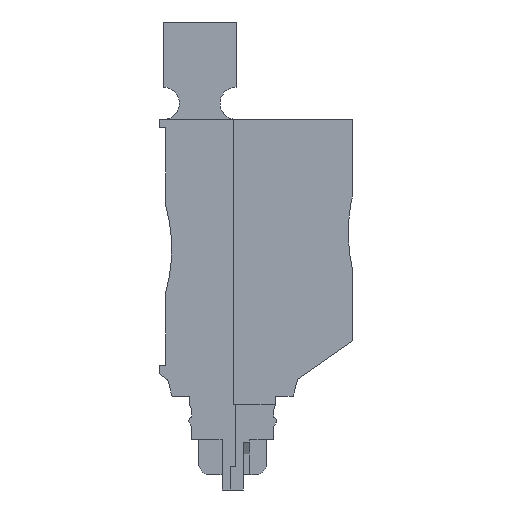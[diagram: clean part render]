
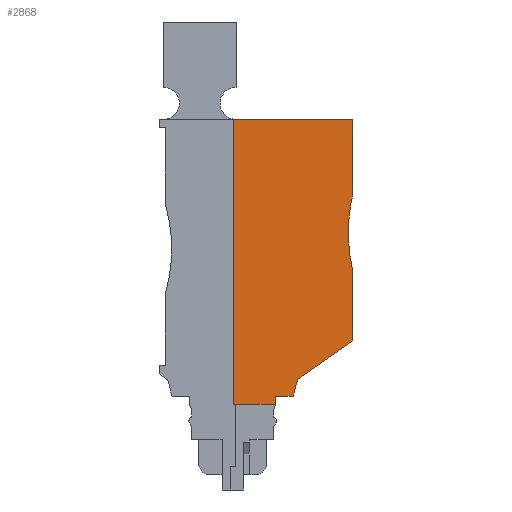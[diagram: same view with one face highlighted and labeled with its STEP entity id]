
A CAD part, left-side view. The second image highlights one B-rep face of the part: STEP entity #2868.
In plain terms, the highlighted planar face has unit normal (-1, 0, 0).
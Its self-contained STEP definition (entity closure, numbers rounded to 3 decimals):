
#348=CARTESIAN_POINT('',(0.,0.558,32.522));
#349=VERTEX_POINT('',#348);
#389=CARTESIAN_POINT('',(0.,-0.,36.419));
#390=VERTEX_POINT('',#389);
#397=CARTESIAN_POINT('',(0.,-19.423,31.65));
#398=DIRECTION('',(1.,-0.,-0.));
#399=DIRECTION('',(0.,0.174,0.985));
#400=AXIS2_PLACEMENT_3D('',#397,#398,#399);
#401=CIRCLE('',#400,20.);
#402=EDGE_CURVE('',#349,#390,#401,.T.);
#1678=CARTESIAN_POINT('',(0.,-0.,45.55));
#1679=VERTEX_POINT('',#1678);
#1686=CARTESIAN_POINT('',(-0.,-0.,36.419));
#1687=DIRECTION('',(0.,-0.,1.));
#1688=VECTOR('',#1687,9.131);
#1689=LINE('',#1686,#1688);
#1690=EDGE_CURVE('',#390,#1679,#1689,.T.);
#1742=CARTESIAN_POINT('',(-0.,7.349,11.55));
#1743=VERTEX_POINT('',#1742);
#1751=CARTESIAN_POINT('',(-0.,6.803,13.586));
#1752=VERTEX_POINT('',#1751);
#1759=CARTESIAN_POINT('',(-0.,7.349,11.55));
#1760=DIRECTION('',(0.,-0.259,0.966));
#1761=VECTOR('',#1760,2.108);
#1762=LINE('',#1759,#1761);
#1763=EDGE_CURVE('',#1743,#1752,#1762,.T.);
#2046=CARTESIAN_POINT('',(0.,-0.,18.35));
#2047=VERTEX_POINT('',#2046);
#2054=CARTESIAN_POINT('',(-0.,6.803,13.586));
#2055=DIRECTION('',(0.,-0.819,0.574));
#2056=VECTOR('',#2055,8.305);
#2057=LINE('',#2054,#2056);
#2058=EDGE_CURVE('',#1752,#2047,#2057,.T.);
#2180=CARTESIAN_POINT('',(-0.,9.55,11.55));
#2181=VERTEX_POINT('',#2180);
#2188=CARTESIAN_POINT('',(-0.,9.55,10.5));
#2189=VERTEX_POINT('',#2188);
#2190=CARTESIAN_POINT('',(-0.,9.55,10.5));
#2191=DIRECTION('',(0.,0.,1.));
#2192=VECTOR('',#2191,1.05);
#2193=LINE('',#2190,#2192);
#2194=EDGE_CURVE('',#2189,#2181,#2193,.T.);
#2290=CARTESIAN_POINT('',(-0.,14.7,10.5));
#2291=VERTEX_POINT('',#2290);
#2292=CARTESIAN_POINT('',(-0.,14.7,10.5));
#2293=DIRECTION('',(-0.,-1.,-0.));
#2294=VECTOR('',#2293,5.15);
#2295=LINE('',#2292,#2294);
#2296=EDGE_CURVE('',#2291,#2189,#2295,.T.);
#2441=CARTESIAN_POINT('',(-0.,9.55,11.55));
#2442=DIRECTION('',(-0.,-1.,0.));
#2443=VECTOR('',#2442,2.201);
#2444=LINE('',#2441,#2443);
#2445=EDGE_CURVE('',#2181,#1743,#2444,.T.);
#2693=CARTESIAN_POINT('',(0.,14.7,45.55));
#2694=VERTEX_POINT('',#2693);
#2701=CARTESIAN_POINT('',(0.,-0.,45.55));
#2702=DIRECTION('',(0.,1.,-0.));
#2703=VECTOR('',#2702,14.7);
#2704=LINE('',#2701,#2703);
#2705=EDGE_CURVE('',#1679,#2694,#2704,.T.);
#2832=CARTESIAN_POINT('',(0.,7.35,34.192));
#2833=DIRECTION('',(-1.,0.,0.));
#2834=DIRECTION('',(0.,-0.766,0.643));
#2835=AXIS2_PLACEMENT_3D('',#2832,#2833,#2834);
#2836=PLANE('',#2835);
#2837=CARTESIAN_POINT('',(0.,-0.,26.881));
#2838=VERTEX_POINT('',#2837);
#2839=CARTESIAN_POINT('',(0.,-0.,26.881));
#2840=DIRECTION('',(-0.,0.,-1.));
#2841=VECTOR('',#2840,8.531);
#2842=LINE('',#2839,#2841);
#2843=EDGE_CURVE('',#2838,#2047,#2842,.T.);
#2844=ORIENTED_EDGE('',*,*,#2843,.F.);
#2845=CARTESIAN_POINT('',(0.,-19.423,31.65));
#2846=DIRECTION('',(1.,-0.,-0.));
#2847=DIRECTION('',(0.,0.174,0.985));
#2848=AXIS2_PLACEMENT_3D('',#2845,#2846,#2847);
#2849=CIRCLE('',#2848,20.);
#2850=EDGE_CURVE('',#2838,#349,#2849,.T.);
#2851=ORIENTED_EDGE('',*,*,#2850,.T.);
#2852=ORIENTED_EDGE('',*,*,#402,.T.);
#2853=ORIENTED_EDGE('',*,*,#1690,.T.);
#2854=ORIENTED_EDGE('',*,*,#2705,.T.);
#2855=CARTESIAN_POINT('',(-0.,14.7,10.5));
#2856=DIRECTION('',(0.,0.,1.));
#2857=VECTOR('',#2856,35.05);
#2858=LINE('',#2855,#2857);
#2859=EDGE_CURVE('',#2291,#2694,#2858,.T.);
#2860=ORIENTED_EDGE('',*,*,#2859,.F.);
#2861=ORIENTED_EDGE('',*,*,#2296,.T.);
#2862=ORIENTED_EDGE('',*,*,#2194,.T.);
#2863=ORIENTED_EDGE('',*,*,#2445,.T.);
#2864=ORIENTED_EDGE('',*,*,#1763,.T.);
#2865=ORIENTED_EDGE('',*,*,#2058,.T.);
#2866=EDGE_LOOP('',(#2844,#2851,#2852,#2853,#2854,#2860,#2861,#2862,#2863,#2864,#2865));
#2867=FACE_BOUND('',#2866,.T.);
#2868=ADVANCED_FACE('',(#2867),#2836,.T.);
